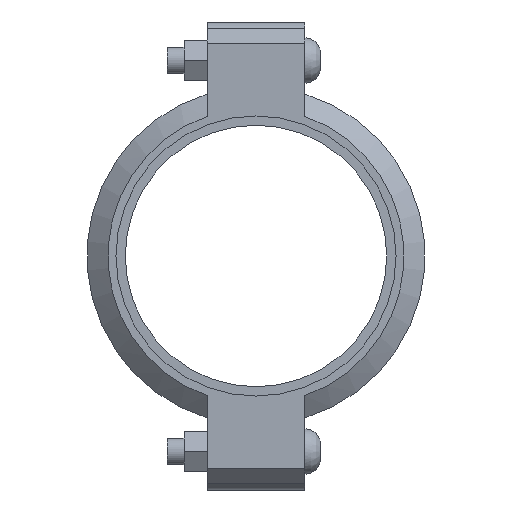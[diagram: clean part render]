
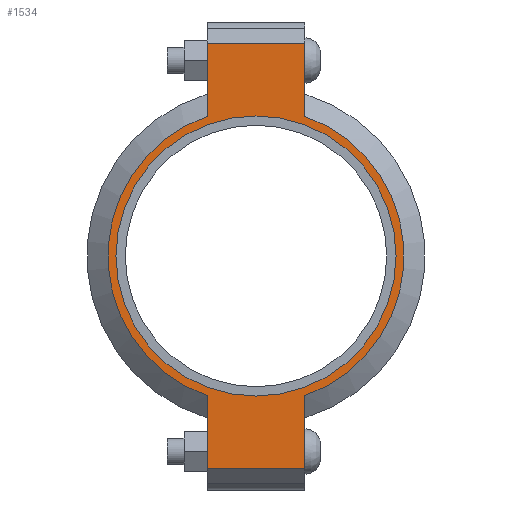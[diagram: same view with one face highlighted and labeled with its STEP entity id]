
A CAD part, left-side view. The second image highlights one B-rep face of the part: STEP entity #1534.
In plain terms, the highlighted planar face has unit normal (-1, 0, 0) as drawn and (0, 0, 1) by its records, which use the part's own axes.
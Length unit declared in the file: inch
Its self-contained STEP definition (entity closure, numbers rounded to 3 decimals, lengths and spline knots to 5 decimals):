
#158=LINE('',#2668,#251);
#166=LINE('',#2704,#259);
#173=LINE('',#2725,#266);
#182=LINE('',#2757,#275);
#183=LINE('',#2761,#276);
#184=LINE('',#2763,#277);
#251=VECTOR('',#2176,0.3937);
#259=VECTOR('',#2192,0.3937);
#266=VECTOR('',#2211,0.3937);
#275=VECTOR('',#2236,0.3937);
#276=VECTOR('',#2241,0.3937);
#277=VECTOR('',#2242,0.3937);
#333=FACE_BOUND('',#511,.T.);
#405=FACE_OUTER_BOUND('',#510,.T.);
#510=EDGE_LOOP('',(#1275,#1276,#1277,#1278,#1279,#1280,#1281,#1282));
#511=EDGE_LOOP('',(#1283));
#583=CIRCLE('',#1744,3.3125);
#609=CIRCLE('',#1803,3.5);
#610=CIRCLE('',#1804,3.5);
#675=VERTEX_POINT('',#2484);
#718=VERTEX_POINT('',#2665);
#719=VERTEX_POINT('',#2667);
#730=VERTEX_POINT('',#2699);
#731=VERTEX_POINT('',#2703);
#738=VERTEX_POINT('',#2722);
#739=VERTEX_POINT('',#2724);
#749=VERTEX_POINT('',#2760);
#750=VERTEX_POINT('',#2762);
#831=EDGE_CURVE('',#675,#675,#583,.T.);
#892=EDGE_CURVE('',#719,#718,#158,.T.);
#906=EDGE_CURVE('',#731,#730,#166,.T.);
#916=EDGE_CURVE('',#739,#738,#173,.T.);
#931=EDGE_CURVE('',#731,#718,#182,.T.);
#932=EDGE_CURVE('',#730,#739,#609,.T.);
#933=EDGE_CURVE('',#749,#738,#183,.T.);
#934=EDGE_CURVE('',#749,#750,#184,.T.);
#935=EDGE_CURVE('',#750,#719,#610,.T.);
#1275=ORIENTED_EDGE('',*,*,#931,.F.);
#1276=ORIENTED_EDGE('',*,*,#906,.T.);
#1277=ORIENTED_EDGE('',*,*,#932,.T.);
#1278=ORIENTED_EDGE('',*,*,#916,.T.);
#1279=ORIENTED_EDGE('',*,*,#933,.F.);
#1280=ORIENTED_EDGE('',*,*,#934,.T.);
#1281=ORIENTED_EDGE('',*,*,#935,.T.);
#1282=ORIENTED_EDGE('',*,*,#892,.T.);
#1283=ORIENTED_EDGE('',*,*,#831,.T.);
#1376=PLANE('',#1802);
#1534=ADVANCED_FACE('',(#405,#333),#1376,.T.);
#1744=AXIS2_PLACEMENT_3D('',#2486,#2052,#2053);
#1802=AXIS2_PLACEMENT_3D('',#2758,#2237,#2238);
#1803=AXIS2_PLACEMENT_3D('',#2759,#2239,#2240);
#1804=AXIS2_PLACEMENT_3D('',#2764,#2243,#2244);
#2052=DIRECTION('center_axis',(0.,0.,-1.));
#2053=DIRECTION('ref_axis',(-1.,0.,0.));
#2176=DIRECTION('',(-1.,0.,0.));
#2192=DIRECTION('',(1.,0.,0.));
#2211=DIRECTION('',(1.,0.,0.));
#2236=DIRECTION('',(0.,1.,0.));
#2237=DIRECTION('center_axis',(0.,0.,1.));
#2238=DIRECTION('ref_axis',(1.,0.,0.));
#2239=DIRECTION('center_axis',(0.,0.,1.));
#2240=DIRECTION('ref_axis',(-1.,0.,0.));
#2241=DIRECTION('',(0.,-1.,0.));
#2242=DIRECTION('',(-1.,0.,0.));
#2243=DIRECTION('center_axis',(0.,0.,1.));
#2244=DIRECTION('ref_axis',(-1.,0.,0.));
#2484=CARTESIAN_POINT('',(3.3125,0.,1.065));
#2486=CARTESIAN_POINT('Origin',(0.,0.,1.065));
#2665=CARTESIAN_POINT('',(-5.035,1.156,1.065));
#2667=CARTESIAN_POINT('',(-3.30358,1.156,1.065));
#2668=CARTESIAN_POINT('',(-5.535,1.156,1.065));
#2699=CARTESIAN_POINT('',(-3.30358,-1.156,1.065));
#2703=CARTESIAN_POINT('',(-5.035,-1.156,1.065));
#2704=CARTESIAN_POINT('',(5.535,-1.156,1.065));
#2722=CARTESIAN_POINT('',(5.035,-1.156,1.065));
#2724=CARTESIAN_POINT('',(3.30358,-1.156,1.065));
#2725=CARTESIAN_POINT('',(5.535,-1.156,1.065));
#2757=CARTESIAN_POINT('',(-5.035,0.578,1.065));
#2758=CARTESIAN_POINT('Origin',(0.,0.,1.065));
#2759=CARTESIAN_POINT('Origin',(0.,0.,1.065));
#2760=CARTESIAN_POINT('',(5.035,1.156,1.065));
#2761=CARTESIAN_POINT('',(5.035,-0.578,1.065));
#2762=CARTESIAN_POINT('',(3.30358,1.156,1.065));
#2763=CARTESIAN_POINT('',(-5.535,1.156,1.065));
#2764=CARTESIAN_POINT('Origin',(0.,0.,1.065));
